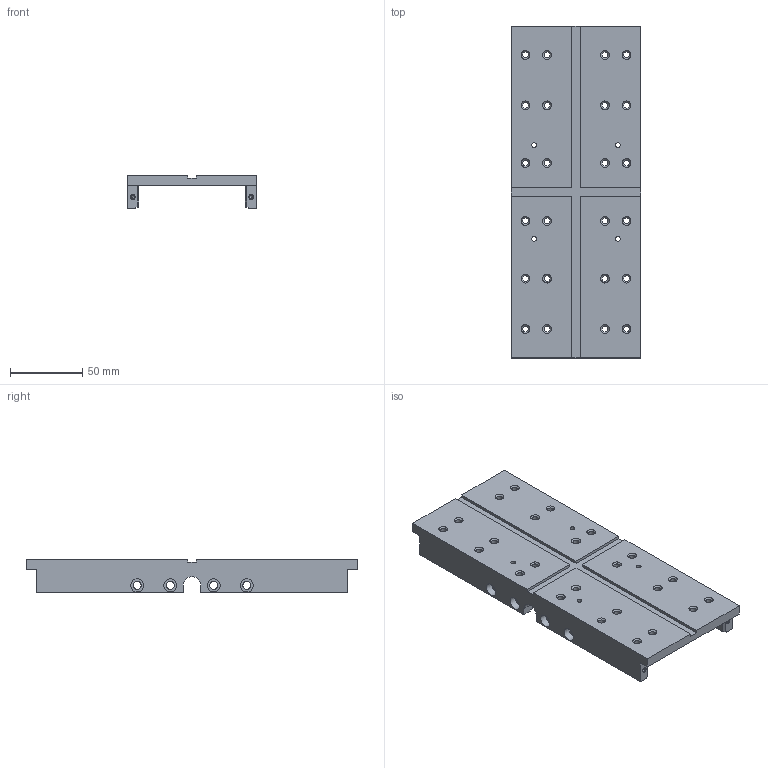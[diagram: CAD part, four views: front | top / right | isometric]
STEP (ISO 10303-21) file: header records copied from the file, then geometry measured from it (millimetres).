
FILE_DESCRIPTION(('STEP AP203'), '1');
FILE_NAME('ÒÏÏÔ1801.01.12.06.005 - Êàðåòêà', '', ('UNSPECIFIED'), ('UNSPECIFIED'), 'C3D Converter', 'C3D Toolkit', '');
FILE_SCHEMA(('CONFIG_CONTROL_DESIGN'));
Length unit declared in the file: millimetre
Products named in the file (1): ТППФ1801.01.12.06.005
Bounding box: 90 x 230 x 23 mm (x, y, z)
Volume: 170425.1 mm3; surface area: 64663.2 mm2
Topology: 1 solids, 1 shells, 158 faces, 444 edges, 284 vertices
Faces by surface type: plane 68, cylinder 54, cone 36
Full cylindrical faces by diameter (mm): 2.459 x4, 3.242 x4, 4.134 x24, 5.5 x8, 9 x8
Entity records: 6096 total; most frequent: DIRECTION 838, CARTESIAN_POINT 795, ORIENTED_EDGE 712, EDGE_CURVE 356, AXIS2_PLACEMENT_3D 323, EDGE_LOOP 310, VERTEX_POINT 280, LINE 192
